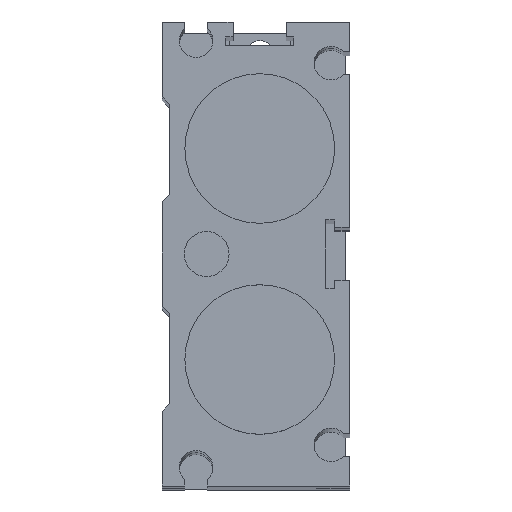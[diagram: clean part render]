
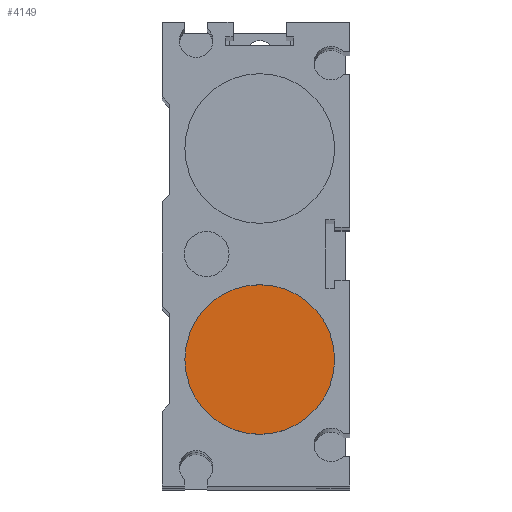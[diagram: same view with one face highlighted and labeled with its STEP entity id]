
A CAD part, top view. The second image highlights one B-rep face of the part: STEP entity #4149.
In plain terms, the highlighted planar face has unit normal (0, 0, 1).
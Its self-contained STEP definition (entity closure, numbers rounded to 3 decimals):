
#4126=CARTESIAN_POINT('',(10.0,-14.1,573.0));
#4127=VERTEX_POINT('',#4126);
#4128=CARTESIAN_POINT('',(0.0,-14.1,573.0));
#4129=DIRECTION('',(0.0,0.0,1.0));
#4130=DIRECTION('',(-1.0,0.0,0.0));
#4131=AXIS2_PLACEMENT_3D('',#4128,#4129,#4130);
#4132=CIRCLE('',#4131,10.0);
#4133=EDGE_CURVE('',#4127,#4127,#4132,.T.);
#4141=CARTESIAN_POINT('',(0.0,-14.1,573.0));
#4142=DIRECTION('',(0.0,0.0,-1.0));
#4143=DIRECTION('',(-1.0,0.0,0.0));
#4144=AXIS2_PLACEMENT_3D('',#4141,#4142,#4143);
#4145=PLANE('',#4144);
#4146=ORIENTED_EDGE('',*,*,#4133,.T.);
#4147=EDGE_LOOP('',(#4146));
#4148=FACE_OUTER_BOUND('',#4147,.T.);
#4149=ADVANCED_FACE('',(#4148),#4145,.F.);
